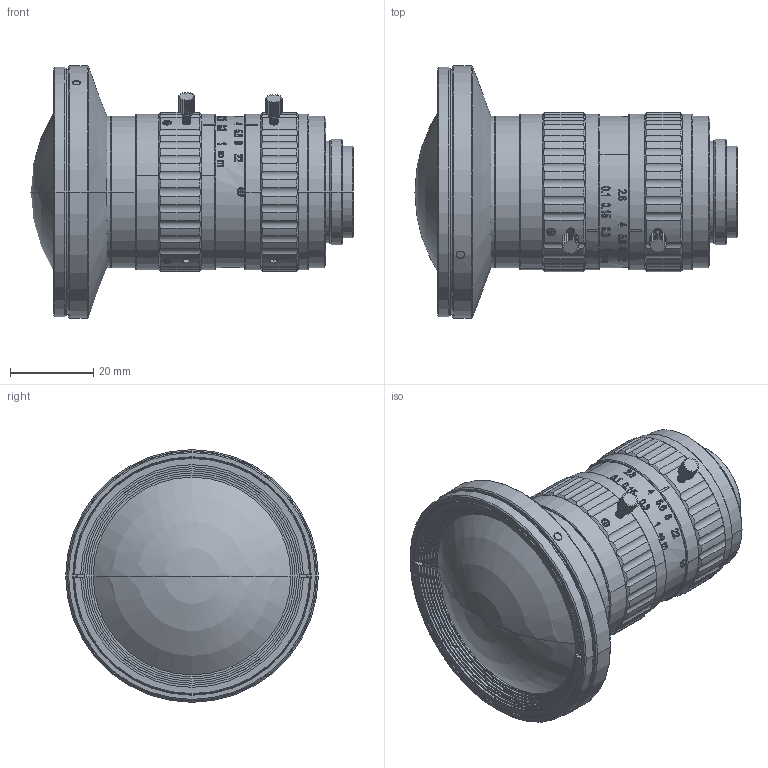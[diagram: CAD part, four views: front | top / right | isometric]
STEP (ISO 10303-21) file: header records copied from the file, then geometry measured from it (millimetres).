
FILE_DESCRIPTION((''),'2;1');
FILE_NAME('FA0825A-200_ASM','2025-04-17T17:10:08',('Admin'),(''),'CREO PARAMETRIC BY PTC INC, 2022073','CREO PARAMETRIC BY PTC INC, 2022073','');
FILE_SCHEMA(('AP242_MANAGED_MODEL_BASED_3D_ENGINEERING_MIM_LF { 1 0 10303 442 1 1 4 }'));
Length unit declared in the file: millimetre
Products named in the file (105): GB1936A-505_AF0; GB1936A-502_AF0; GB1936A-307_AF0; GB1936A-308_AF0; GB1936A-515_AF0; FA0825A-202_AF0_ASM; GB1936A-503_AF0; GB1936A-310_AF0; GB1936A-517_AF0; GB1936A-311_AF0; GB1936A-518_AF0; GB1936A-312_AF0; GB1936A-313_AF0; GB1936A-314_AF0; GB1936A-519_AF0; GB1936A-315_AF0; GB1936A-520_AF0; GB1936A-309_AF0; GB1936A-516_AF0; MA117-02-19________AF0; MA115-02-07_AF0; MA117-02-19________AF1; MA115-01-01_AF0_ASM; MA117-02-19________AF2; MA115-02-07_AF1; MA117-02-19________AF3; MA115-01-01_AF1_ASM; MA117-02-19________AF4; MA115-02-07_AF2; MA117-02-19________AF5; MA115-01-01_AF2_ASM; MA086-02-01_AF0; MA117-02-19________AF6; MA115-02-07_AF3; MA117-02-19________AF7; MA115-01-01_AF3_ASM; MA117-02-19________AF8; MA115-02-07_AF4; MA117-02-19________AF9; MA115-01-01_AF4_ASM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
Assembly tree (104 placements, depth 6):
  FA0825A-200_ASM
    GB1936A-505_AF0
    FA0825A-202_AF0_ASM
      GB1936A-502_AF0
      GB1936A-307_AF0
      GB1936A-308_AF0
      GB1936A-515_AF0
    FA0825A-203_AF0_ASM
      GB1936A-503_AF0
      GB1936A-310_AF0
      GB1936A-517_AF0
      GB1936A-311_AF0
      GB1936A-518_AF0
      GB1936A-312_AF0
      GB1936A-313_AF0
      GB1936A-314_AF0
      GB1936A-519_AF0
      GB1936A-315_AF0
      GB1936A-520_AF0
      GB1936A-309_AF0
      GB1936A-516_AF0
      MA076-00-01_AF0_ASM
        ASM0001_AF0_ASM
          MA115-01-01_AF0_ASM
            MA117-02-19________AF0
            MA115-02-07_AF0
            MA117-02-19________AF1
          MA115-01-01_AF1_ASM
            MA117-02-19________AF2
            MA115-02-07_AF1
            MA117-02-19________AF3
          MA115-01-01_AF2_ASM
            MA117-02-19________AF4
            MA115-02-07_AF2
            MA117-02-19________AF5
          MA086-02-01_AF0
          MA115-01-01_AF3_ASM
            MA117-02-19________AF6
            MA115-02-07_AF3
            MA117-02-19________AF7
          MA115-01-01_AF4_ASM
            MA117-02-19________AF8
            MA115-02-07_AF4
            MA117-02-19________AF9
          MA115-01-01_AF5_ASM
            MA117-02-19________AF10
            MA115-02-07_AF5
            MA117-02-19________AF11
          MA115-02-04_AF0
          MA115-01-01_AF6_ASM
            MA117-02-19________AF12
            MA115-02-07_AF6
            MA117-02-19________AF13
          MA115-02-22_AF0
          MA115-01-01_AF7_ASM
            MA117-02-19________AF14
            MA115-02-07_AF7
            MA117-02-19________AF15
          MA115-01-01_AF8_ASM
            MA117-02-19________AF16
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Bounding box: 77.52 x 60.8 x 60.8 mm (x, y, z)
Volume: 37408.4 mm3; surface area: 46160.6 mm2
Topology: 38 solids, 38 shells, 1922 faces, 4912 edges, 3150 vertices
Faces by surface type: cylinder 621, bspline 535, plane 482, cone 222, torus 58, sphere 4
Entity records: 97751 total; most frequent: CARTESIAN_POINT 46666, ORIENTED_EDGE 9808, DIRECTION 7873, EDGE_CURVE 4904, VERTEX_POINT 3150, AXIS2_PLACEMENT_3D 2961, EDGE_LOOP 2120, VECTOR 1951
